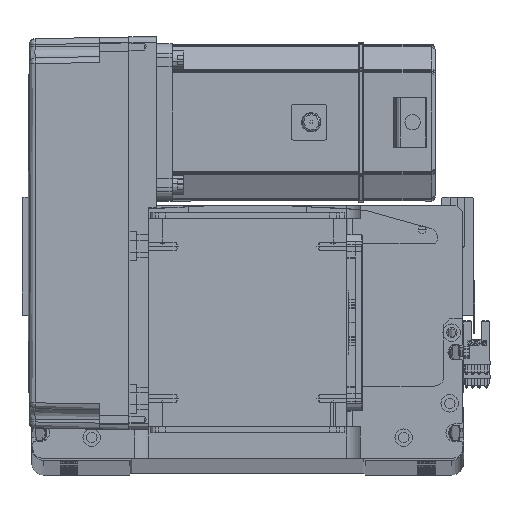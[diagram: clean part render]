
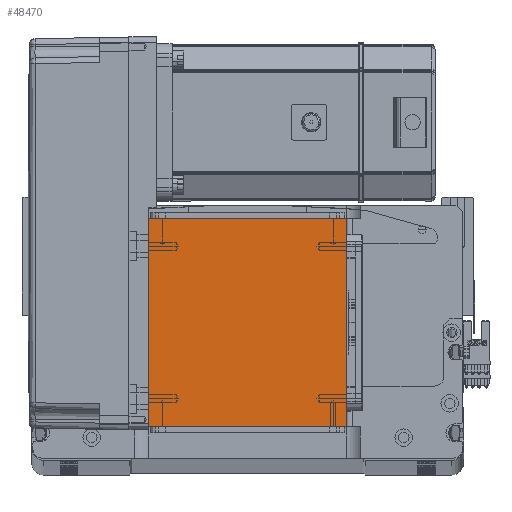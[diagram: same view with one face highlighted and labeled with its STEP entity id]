
A CAD part, top view. The second image highlights one B-rep face of the part: STEP entity #48470.
In plain terms, the highlighted planar face has unit normal (0, 0, 1).
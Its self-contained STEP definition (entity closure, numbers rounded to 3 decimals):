
#644 = VECTOR ( 'NONE', #45324, 1000. ) ;
#2945 = CARTESIAN_POINT ( 'NONE',  ( 50.5, 122., 115. ) ) ;
#5538 = EDGE_CURVE ( 'NONE', #41945, #19396, #35637, .T. ) ;
#6806 = VECTOR ( 'NONE', #37221, 1000. ) ;
#7860 = DIRECTION ( 'NONE',  ( 0., 0., 1. ) ) ;
#11253 = VERTEX_POINT ( 'NONE', #43078 ) ;
#12136 = LINE ( 'NONE', #12609, #36385 ) ;
#12609 = CARTESIAN_POINT ( 'NONE',  ( -50.5, 122., 115. ) ) ;
#13018 = VERTEX_POINT ( 'NONE', #33124 ) ;
#13561 = FACE_OUTER_BOUND ( 'NONE', #36364, .T. ) ;
#19396 = VERTEX_POINT ( 'NONE', #39971 ) ;
#24153 = LINE ( 'NONE', #2945, #644 ) ;
#26335 = CARTESIAN_POINT ( 'NONE',  ( 50.5, 122., 115. ) ) ;
#27168 = PLANE ( 'NONE',  #31037 ) ;
#27392 = DIRECTION ( 'NONE',  ( 1., 0., 0. ) ) ;
#27878 = ORIENTED_EDGE ( 'NONE', *, *, #39472, .T. ) ;
#27893 = CARTESIAN_POINT ( 'NONE',  ( -50.5, 122., 115. ) ) ;
#31037 = AXIS2_PLACEMENT_3D ( 'NONE', #47047, #7860, #56482 ) ;
#33124 = CARTESIAN_POINT ( 'NONE',  ( -50.5, 16., 115. ) ) ;
#33966 = ORIENTED_EDGE ( 'NONE', *, *, #5538, .T. ) ;
#35637 = LINE ( 'NONE', #27893, #6806 ) ;
#36364 = EDGE_LOOP ( 'NONE', ( #44279, #27878, #37877, #33966 ) ) ;
#36385 = VECTOR ( 'NONE', #37801, 1000. ) ;
#37221 = DIRECTION ( 'NONE',  ( -1., 0., 0. ) ) ;
#37801 = DIRECTION ( 'NONE',  ( 0., -1., 0. ) ) ;
#37877 = ORIENTED_EDGE ( 'NONE', *, *, #48903, .T. ) ;
#39472 = EDGE_CURVE ( 'NONE', #13018, #11253, #47779, .T. ) ;
#39971 = CARTESIAN_POINT ( 'NONE',  ( -50.5, 122., 115. ) ) ;
#41945 = VERTEX_POINT ( 'NONE', #26335 ) ;
#43078 = CARTESIAN_POINT ( 'NONE',  ( 50.5, 16., 115. ) ) ;
#44279 = ORIENTED_EDGE ( 'NONE', *, *, #53710, .T. ) ;
#45324 = DIRECTION ( 'NONE',  ( 0., 1., 0. ) ) ;
#47047 = CARTESIAN_POINT ( 'NONE',  ( 0., 0., 115. ) ) ;
#47779 = LINE ( 'NONE', #51577, #59256 ) ;
#48470 = ADVANCED_FACE ( 'NONE', ( #13561 ), #27168, .T. ) ;
#48903 = EDGE_CURVE ( 'NONE', #11253, #41945, #24153, .T. ) ;
#51577 = CARTESIAN_POINT ( 'NONE',  ( -50.5, 16., 115. ) ) ;
#53710 = EDGE_CURVE ( 'NONE', #19396, #13018, #12136, .T. ) ;
#56482 = DIRECTION ( 'NONE',  ( 1., 0., 0. ) ) ;
#59256 = VECTOR ( 'NONE', #27392, 1000. ) ;
